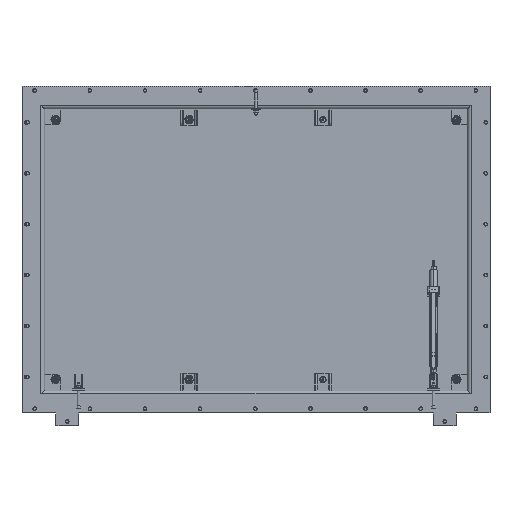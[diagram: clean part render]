
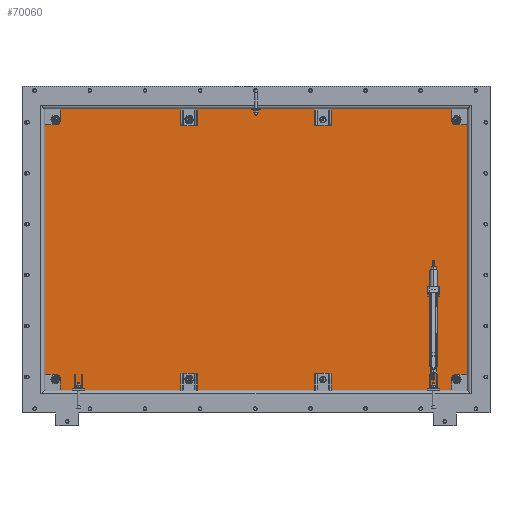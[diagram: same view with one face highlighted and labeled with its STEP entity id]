
A CAD part, front view. The second image highlights one B-rep face of the part: STEP entity #70060.
In plain terms, the highlighted planar face has unit normal (0, -1, 0).
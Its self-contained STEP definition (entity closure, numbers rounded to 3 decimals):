
#57715=DIRECTION('',(0.,0.,-1.));
#57716=VECTOR('',#57715,1002.2);
#57717=CARTESIAN_POINT('',(-3.6,70.,998.6));
#57718=LINE('',#57717,#57716);
#57771=CARTESIAN_POINT('',(38.,70.,957.));
#57772=DIRECTION('',(0.,1.,0.));
#57773=DIRECTION('',(1.,0.,0.));
#57774=AXIS2_PLACEMENT_3D('',#57771,#57772,#57773);
#57776=CARTESIAN_POINT('',(38.,70.,957.));
#57777=DIRECTION('',(0.,1.,0.));
#57778=DIRECTION('',(-1.,0.,0.));
#57779=AXIS2_PLACEMENT_3D('',#57776,#57777,#57778);
#57781=CARTESIAN_POINT('',(38.,70.,38.));
#57782=DIRECTION('',(0.,1.,0.));
#57783=DIRECTION('',(1.,0.,0.));
#57784=AXIS2_PLACEMENT_3D('',#57781,#57782,#57783);
#57786=CARTESIAN_POINT('',(38.,70.,38.));
#57787=DIRECTION('',(0.,1.,0.));
#57788=DIRECTION('',(-1.,0.,0.));
#57789=AXIS2_PLACEMENT_3D('',#57786,#57787,#57788);
#57791=CARTESIAN_POINT('',(1457.,70.,957.));
#57792=DIRECTION('',(0.,1.,0.));
#57793=DIRECTION('',(1.,0.,0.));
#57794=AXIS2_PLACEMENT_3D('',#57791,#57792,#57793);
#57796=CARTESIAN_POINT('',(1457.,70.,957.));
#57797=DIRECTION('',(0.,1.,0.));
#57798=DIRECTION('',(-1.,0.,0.));
#57799=AXIS2_PLACEMENT_3D('',#57796,#57797,#57798);
#57801=CARTESIAN_POINT('',(1457.,70.,38.));
#57802=DIRECTION('',(0.,1.,0.));
#57803=DIRECTION('',(1.,0.,0.));
#57804=AXIS2_PLACEMENT_3D('',#57801,#57802,#57803);
#57806=CARTESIAN_POINT('',(1457.,70.,38.));
#57807=DIRECTION('',(0.,1.,0.));
#57808=DIRECTION('',(-1.,0.,0.));
#57809=AXIS2_PLACEMENT_3D('',#57806,#57807,#57808);
#57811=CARTESIAN_POINT('',(511.,70.,38.));
#57812=DIRECTION('',(0.,1.,0.));
#57813=DIRECTION('',(1.,0.,0.));
#57814=AXIS2_PLACEMENT_3D('',#57811,#57812,#57813);
#57816=CARTESIAN_POINT('',(511.,70.,38.));
#57817=DIRECTION('',(0.,1.,0.));
#57818=DIRECTION('',(-1.,0.,0.));
#57819=AXIS2_PLACEMENT_3D('',#57816,#57817,#57818);
#57821=CARTESIAN_POINT('',(511.,70.,957.));
#57822=DIRECTION('',(0.,1.,0.));
#57823=DIRECTION('',(1.,0.,0.));
#57824=AXIS2_PLACEMENT_3D('',#57821,#57822,#57823);
#57826=CARTESIAN_POINT('',(511.,70.,957.));
#57827=DIRECTION('',(0.,1.,0.));
#57828=DIRECTION('',(-1.,0.,0.));
#57829=AXIS2_PLACEMENT_3D('',#57826,#57827,#57828);
#57831=CARTESIAN_POINT('',(984.,70.,38.));
#57832=DIRECTION('',(0.,1.,0.));
#57833=DIRECTION('',(1.,0.,0.));
#57834=AXIS2_PLACEMENT_3D('',#57831,#57832,#57833);
#57836=CARTESIAN_POINT('',(984.,70.,38.));
#57837=DIRECTION('',(0.,1.,0.));
#57838=DIRECTION('',(-1.,0.,0.));
#57839=AXIS2_PLACEMENT_3D('',#57836,#57837,#57838);
#57841=CARTESIAN_POINT('',(984.,70.,957.));
#57842=DIRECTION('',(0.,1.,0.));
#57843=DIRECTION('',(1.,0.,0.));
#57844=AXIS2_PLACEMENT_3D('',#57841,#57842,#57843);
#57846=CARTESIAN_POINT('',(984.,70.,957.));
#57847=DIRECTION('',(0.,1.,0.));
#57848=DIRECTION('',(-1.,0.,0.));
#57849=AXIS2_PLACEMENT_3D('',#57846,#57847,#57848);
#57851=DIRECTION('',(-1.,0.,0.));
#57852=VECTOR('',#57851,1502.2);
#57853=CARTESIAN_POINT('',(1498.6,70.,998.6));
#57854=LINE('',#57853,#57852);
#58141=DIRECTION('',(0.,0.,1.));
#58142=VECTOR('',#58141,1002.2);
#58143=CARTESIAN_POINT('',(1498.6,70.,-3.6));
#58144=LINE('',#58143,#58142);
#58195=CARTESIAN_POINT('',(1498.6,70.,-3.6));
#58311=DIRECTION('',(1.,0.,0.));
#58312=VECTOR('',#58311,1502.2);
#58313=CARTESIAN_POINT('',(-3.6,70.,-3.6));
#58314=LINE('',#58313,#58312);
#67901=CARTESIAN_POINT('',(49.,70.,957.));
#67902=CARTESIAN_POINT('',(27.,70.,957.));
#67903=VERTEX_POINT('',#67901);
#67904=VERTEX_POINT('',#67902);
#67905=CARTESIAN_POINT('',(49.,70.,38.));
#67906=CARTESIAN_POINT('',(27.,70.,38.));
#67907=VERTEX_POINT('',#67905);
#67908=VERTEX_POINT('',#67906);
#67909=CARTESIAN_POINT('',(1468.,70.,957.));
#67910=CARTESIAN_POINT('',(1446.,70.,957.));
#67911=VERTEX_POINT('',#67909);
#67912=VERTEX_POINT('',#67910);
#67913=CARTESIAN_POINT('',(1468.,70.,38.));
#67914=CARTESIAN_POINT('',(1446.,70.,38.));
#67915=VERTEX_POINT('',#67913);
#67916=VERTEX_POINT('',#67914);
#67941=VERTEX_POINT('',#58195);
#67953=CARTESIAN_POINT('',(1498.6,70.,998.6));
#67954=VERTEX_POINT('',#67953);
#67975=CARTESIAN_POINT('',(-3.6,70.,-3.6));
#67976=VERTEX_POINT('',#67975);
#67977=CARTESIAN_POINT('',(-3.6,70.,998.6));
#67978=VERTEX_POINT('',#67977);
#68011=CARTESIAN_POINT('',(522.,70.,38.));
#68012=CARTESIAN_POINT('',(500.,70.,38.));
#68013=VERTEX_POINT('',#68011);
#68014=VERTEX_POINT('',#68012);
#68015=CARTESIAN_POINT('',(522.,70.,957.));
#68016=CARTESIAN_POINT('',(500.,70.,957.));
#68017=VERTEX_POINT('',#68015);
#68018=VERTEX_POINT('',#68016);
#68019=CARTESIAN_POINT('',(995.,70.,38.));
#68020=CARTESIAN_POINT('',(973.,70.,38.));
#68021=VERTEX_POINT('',#68019);
#68022=VERTEX_POINT('',#68020);
#68023=CARTESIAN_POINT('',(995.,70.,957.));
#68024=CARTESIAN_POINT('',(973.,70.,957.));
#68025=VERTEX_POINT('',#68023);
#68026=VERTEX_POINT('',#68024);
#69998=CARTESIAN_POINT('',(1495.,70.,-80.));
#69999=DIRECTION('',(0.,-1.,0.));
#70000=DIRECTION('',(1.,0.,0.));
#70001=AXIS2_PLACEMENT_3D('',#69998,#69999,#70000);
#70002=PLANE('',#70001);
#70003=ORIENTED_EDGE('',*,*,#69988,.F.);
#70005=ORIENTED_EDGE('',*,*,#70004,.F.);
#70007=ORIENTED_EDGE('',*,*,#70006,.F.);
#70009=ORIENTED_EDGE('',*,*,#70008,.F.);
#70010=EDGE_LOOP('',(#70003,#70005,#70007,#70009));
#70011=FACE_OUTER_BOUND('',#70010,.F.);
#70013=ORIENTED_EDGE('',*,*,#70012,.F.);
#70015=ORIENTED_EDGE('',*,*,#70014,.F.);
#70016=EDGE_LOOP('',(#70013,#70015));
#70017=FACE_BOUND('',#70016,.F.);
#70019=ORIENTED_EDGE('',*,*,#70018,.F.);
#70021=ORIENTED_EDGE('',*,*,#70020,.F.);
#70022=EDGE_LOOP('',(#70019,#70021));
#70023=FACE_BOUND('',#70022,.F.);
#70025=ORIENTED_EDGE('',*,*,#70024,.F.);
#70027=ORIENTED_EDGE('',*,*,#70026,.F.);
#70028=EDGE_LOOP('',(#70025,#70027));
#70029=FACE_BOUND('',#70028,.F.);
#70031=ORIENTED_EDGE('',*,*,#70030,.F.);
#70033=ORIENTED_EDGE('',*,*,#70032,.F.);
#70034=EDGE_LOOP('',(#70031,#70033));
#70035=FACE_BOUND('',#70034,.F.);
#70037=ORIENTED_EDGE('',*,*,#70036,.F.);
#70039=ORIENTED_EDGE('',*,*,#70038,.F.);
#70040=EDGE_LOOP('',(#70037,#70039));
#70041=FACE_BOUND('',#70040,.F.);
#70043=ORIENTED_EDGE('',*,*,#70042,.F.);
#70045=ORIENTED_EDGE('',*,*,#70044,.F.);
#70046=EDGE_LOOP('',(#70043,#70045));
#70047=FACE_BOUND('',#70046,.F.);
#70049=ORIENTED_EDGE('',*,*,#70048,.F.);
#70051=ORIENTED_EDGE('',*,*,#70050,.F.);
#70052=EDGE_LOOP('',(#70049,#70051));
#70053=FACE_BOUND('',#70052,.F.);
#70055=ORIENTED_EDGE('',*,*,#70054,.F.);
#70057=ORIENTED_EDGE('',*,*,#70056,.F.);
#70058=EDGE_LOOP('',(#70055,#70057));
#70059=FACE_BOUND('',#70058,.F.);
#70060=ADVANCED_FACE('',(#70011,#70017,#70023,#70029,#70035,#70041,#70047,
#70053,#70059),#70002,.T.);
#57775=CIRCLE('',#57774,11.);
#57780=CIRCLE('',#57779,11.);
#57785=CIRCLE('',#57784,11.);
#57790=CIRCLE('',#57789,11.);
#57795=CIRCLE('',#57794,11.);
#57800=CIRCLE('',#57799,11.);
#57805=CIRCLE('',#57804,11.);
#57810=CIRCLE('',#57809,11.);
#57815=CIRCLE('',#57814,11.);
#57820=CIRCLE('',#57819,11.);
#57825=CIRCLE('',#57824,11.);
#57830=CIRCLE('',#57829,11.);
#57835=CIRCLE('',#57834,11.);
#57840=CIRCLE('',#57839,11.);
#57845=CIRCLE('',#57844,11.);
#57850=CIRCLE('',#57849,11.);
#69988=EDGE_CURVE('',#67978,#67976,#57718,.T.);
#70004=EDGE_CURVE('',#67954,#67978,#57854,.T.);
#70006=EDGE_CURVE('',#67941,#67954,#58144,.T.);
#70008=EDGE_CURVE('',#67976,#67941,#58314,.T.);
#70012=EDGE_CURVE('',#67903,#67904,#57775,.T.);
#70014=EDGE_CURVE('',#67904,#67903,#57780,.T.);
#70018=EDGE_CURVE('',#67907,#67908,#57785,.T.);
#70020=EDGE_CURVE('',#67908,#67907,#57790,.T.);
#70024=EDGE_CURVE('',#67911,#67912,#57795,.T.);
#70026=EDGE_CURVE('',#67912,#67911,#57800,.T.);
#70030=EDGE_CURVE('',#67915,#67916,#57805,.T.);
#70032=EDGE_CURVE('',#67916,#67915,#57810,.T.);
#70036=EDGE_CURVE('',#68013,#68014,#57815,.T.);
#70038=EDGE_CURVE('',#68014,#68013,#57820,.T.);
#70042=EDGE_CURVE('',#68017,#68018,#57825,.T.);
#70044=EDGE_CURVE('',#68018,#68017,#57830,.T.);
#70048=EDGE_CURVE('',#68021,#68022,#57835,.T.);
#70050=EDGE_CURVE('',#68022,#68021,#57840,.T.);
#70054=EDGE_CURVE('',#68025,#68026,#57845,.T.);
#70056=EDGE_CURVE('',#68026,#68025,#57850,.T.);
